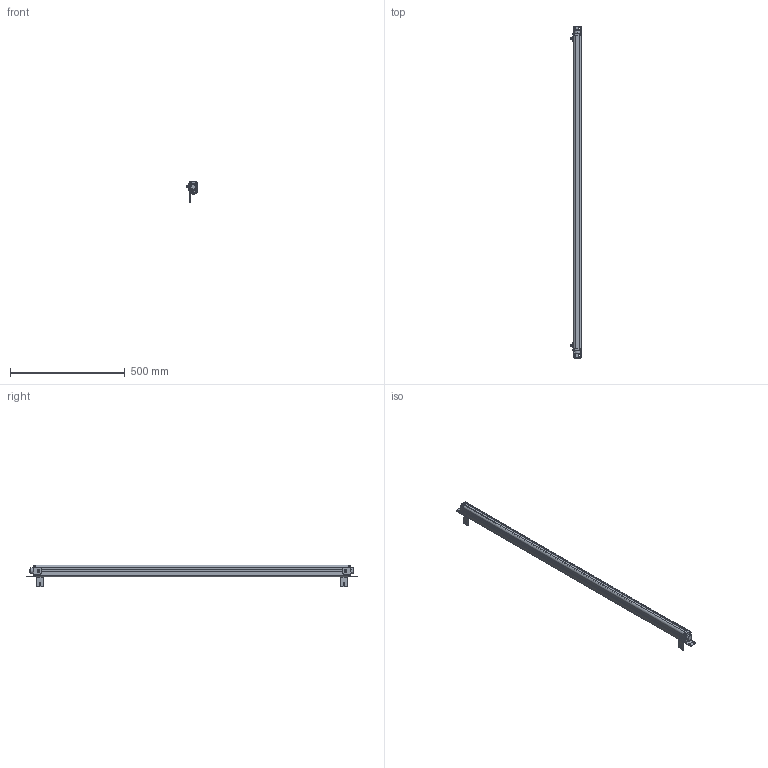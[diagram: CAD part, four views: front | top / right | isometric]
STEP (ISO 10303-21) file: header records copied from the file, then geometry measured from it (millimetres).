
FILE_DESCRIPTION((''),'2;1');
FILE_NAME('ESN--000_ASM','2021-08-11T16:31:32',('18720616900'),(''),'CREO PARAMETRIC BY PTC INC, 2019010','CREO PARAMETRIC BY PTC INC, 2019010','');
FILE_SCHEMA(('CONFIG_CONTROL_DESIGN'));
Products named in the file (22): 00; 000; _0002; _0003; _0004; 5000; 5--0001; ESN_50001_ASM; ST-3-120001; L10001; M6-8--0001; M6-1--00; M6-1-00; M6-80001_ASM; L1--0001_ASM; H1--000; H1--0003_ASM; H1--0001_ASM; ESN--000_ASM
Assembly tree (35 placements, depth 4):
  ESN--000_ASM
    00
    000
    _0002
    _0003
    _0004
    000
    ESN_50001_ASM
      5000
      5--0001  x5
    ST-3-120001  x8
    L1--0001_ASM  x2
      L10001
      M6-80001_ASM
        M6-8--0001
        M6-1--00
        M6-1-00
        00
    H1--0003_ASM
      H1--000
      M6-80001_ASM
        M6-8--0001
        M6-1--00
        M6-1-00
        00
    H1--0001_ASM
      H1--000
      M6-80001_ASM
        M6-8--0001
        M6-1--00
        M6-1-00
        00
Bounding box: 46.5 x 1447 x 94.95 mm (x, y, z)
Volume: 2076468.9 mm3; surface area: 427113.5 mm2
Topology: 40 solids, 40 shells, 1785 faces, 4708 edges, 3012 vertices
Faces by surface type: plane 583, cylinder 416, bspline 362, cone 291, torus 107, sphere 26
Entity records: 48222 total; most frequent: CARTESIAN_POINT 24957, ORIENTED_EDGE 5136, DIRECTION 4189, EDGE_CURVE 2568, VERTEX_POINT 1669, AXIS2_PLACEMENT_3D 1488, VECTOR 1213, LINE 1213
